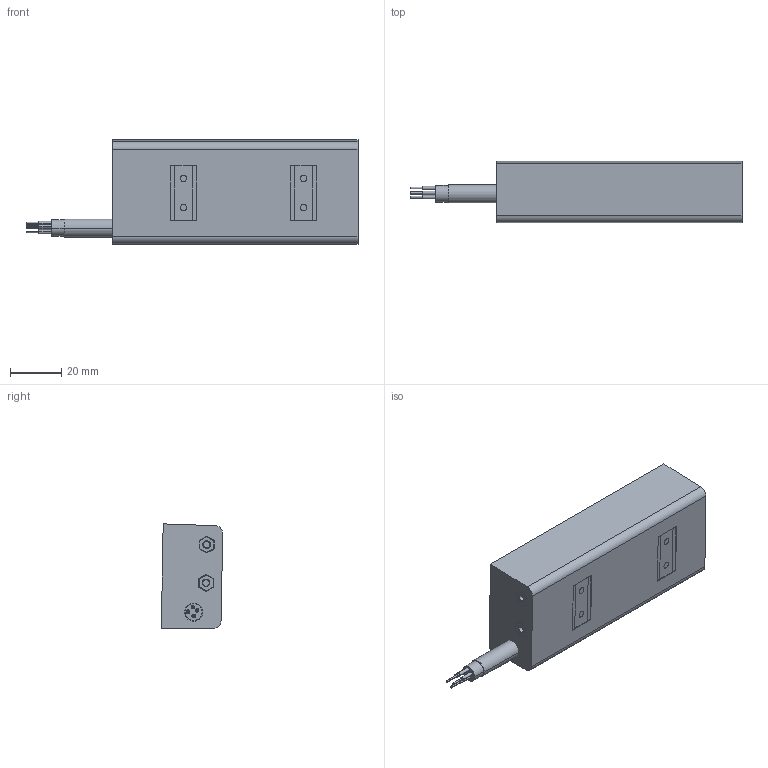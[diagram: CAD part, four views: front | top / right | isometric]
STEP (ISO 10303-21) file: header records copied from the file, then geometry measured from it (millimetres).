
FILE_DESCRIPTION (( 'STEP AP203' ), '1' );
FILE_NAME ('IC40-3 CU 3D..STEP', '2021-11-05T08:45:54', ( '' ), ( '' ), 'SwSTEP 2.0', 'SolidWorks 2021', '' );
FILE_SCHEMA (( 'CONFIG_CONTROL_DESIGN' ));
Length unit declared in the file: millimetre
Products named in the file (6): IC40 slotstrip; IC40 cableclamp; M3 nut hall module for 3D CU; power cable; IC40-3 CU 3D.; resin
Assembly tree (7 placements, depth 2):
  IC40-3 CU 3D.
    IC40 cableclamp
    resin
    power cable
    IC40 slotstrip  x2
    M3 nut hall module for 3D CU  x2
Bounding box: 129.96 x 24 x 40.81 mm (x, y, z)
Volume: 92846 mm3; surface area: 16910.8 mm2
Topology: 7 solids, 7 shells, 217 faces, 508 edges, 306 vertices
Faces by surface type: cylinder 95, plane 84, torus 26, sphere 12
Entity records: 5108 total; most frequent: CARTESIAN_POINT 885, DIRECTION 803, ORIENTED_EDGE 692, EDGE_CURVE 346, AXIS2_PLACEMENT_3D 309, VERTEX_POINT 218, VECTOR 185, LINE 185
